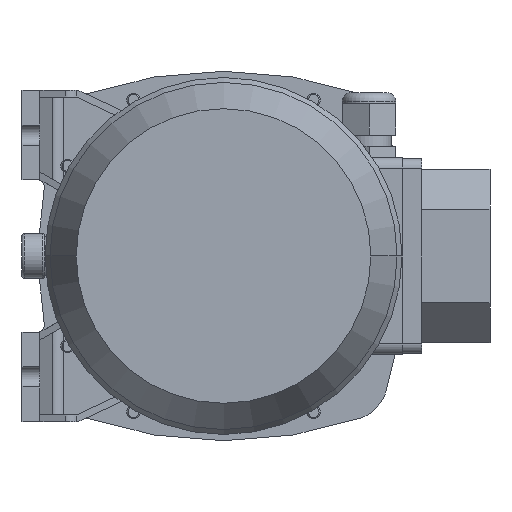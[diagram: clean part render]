
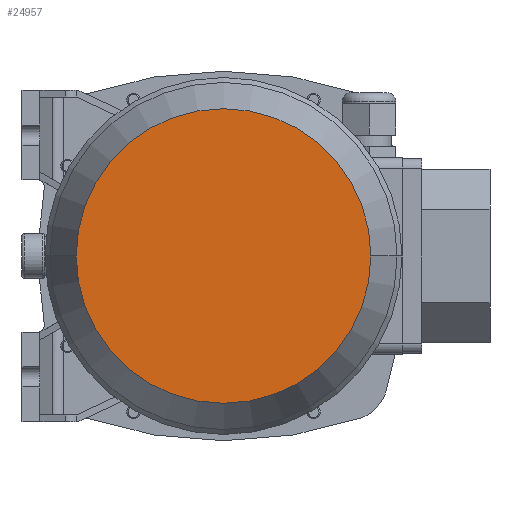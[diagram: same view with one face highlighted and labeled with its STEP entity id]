
A CAD part, front view. The second image highlights one B-rep face of the part: STEP entity #24957.
In plain terms, the highlighted planar face has unit normal (0, -1, 0) as drawn and (1, 0, 0) by its records, which use the part's own axes.
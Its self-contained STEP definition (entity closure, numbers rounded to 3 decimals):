
#18269=CARTESIAN_POINT('',(228.,0.,0.));
#18270=DIRECTION('',(-1.,0.,0.));
#18271=DIRECTION('',(0.,1.,0.));
#18272=AXIS2_PLACEMENT_3D('',#18269,#18270,#18271);
#18277=CARTESIAN_POINT('',(228.,0.,0.));
#18278=DIRECTION('',(1.,0.,0.));
#18279=DIRECTION('',(0.,1.,0.));
#18280=AXIS2_PLACEMENT_3D('',#18277,#18278,#18279);
#20250=CARTESIAN_POINT('',(228.,65.794,0.));
#20252=VERTEX_POINT('',#20250);
#20260=CARTESIAN_POINT('',(228.,-65.794,0.));
#20262=VERTEX_POINT('',#20260);
#24948=CARTESIAN_POINT('',(228.,0.,0.));
#24949=DIRECTION('',(1.,0.,0.));
#24950=DIRECTION('',(0.,-1.,0.));
#24951=AXIS2_PLACEMENT_3D('',#24948,#24949,#24950);
#24952=PLANE('',#24951);
#24953=ORIENTED_EDGE('',*,*,#24930,.T.);
#24954=ORIENTED_EDGE('',*,*,#24941,.F.);
#24955=EDGE_LOOP('',(#24953,#24954));
#24956=FACE_OUTER_BOUND('',#24955,.F.);
#18273=CIRCLE('',#18272,65.794);
#18281=CIRCLE('',#18280,65.794);
#24930=EDGE_CURVE('',#20252,#20262,#18273,.T.);
#24941=EDGE_CURVE('',#20252,#20262,#18281,.T.);
#24957=ADVANCED_FACE('',(#24956),#24952,.T.);
